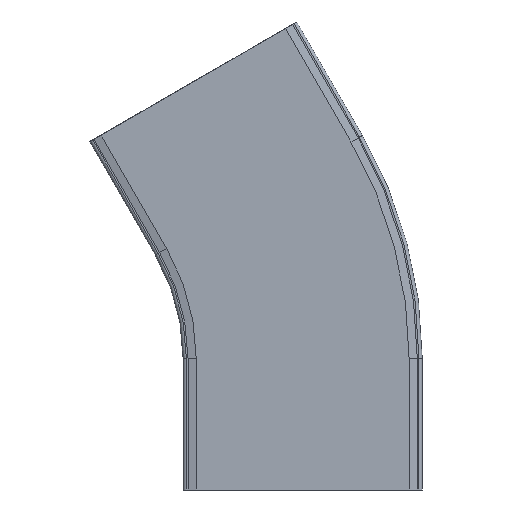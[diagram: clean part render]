
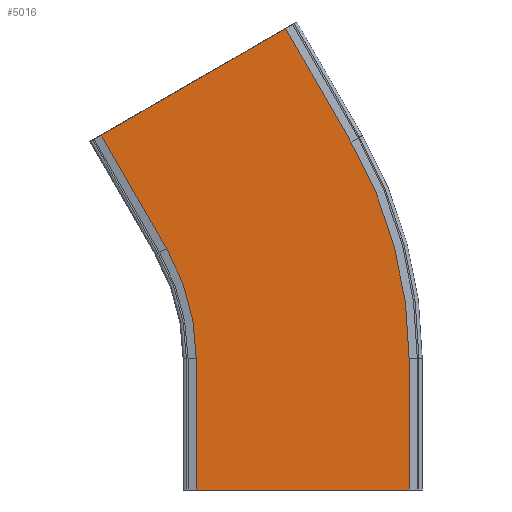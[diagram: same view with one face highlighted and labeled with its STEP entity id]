
A CAD part, front view. The second image highlights one B-rep face of the part: STEP entity #5016.
In plain terms, the highlighted planar face has unit normal (0, -1, 0).
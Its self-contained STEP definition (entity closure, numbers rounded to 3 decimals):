
#4773=CARTESIAN_POINT('',(104.,-74.,0.0));
#4774=VERTEX_POINT('',#4773);
#4781=CARTESIAN_POINT('',(-26.,-74.,0.0));
#4782=VERTEX_POINT('',#4781);
#4783=CARTESIAN_POINT('',(-26.,-74.,0.0));
#4784=DIRECTION('',(1.0,0.0,0.0));
#4785=VECTOR('',#4784,130.);
#4786=LINE('',#4783,#4785);
#4787=EDGE_CURVE('',#4782,#4774,#4786,.T.);
#4842=CARTESIAN_POINT('',(-26.,-74.,80.0));
#4843=VERTEX_POINT('',#4842);
#4852=CARTESIAN_POINT('',(-26.,-74.,0.0));
#4853=DIRECTION('',(0.0,0.0,1.0));
#4854=VECTOR('',#4853,80.0);
#4855=LINE('',#4852,#4854);
#4856=EDGE_CURVE('',#4782,#4843,#4855,.T.);
#4866=CARTESIAN_POINT('',(104.,-74.,80.0));
#4867=VERTEX_POINT('',#4866);
#4876=CARTESIAN_POINT('',(104.,-74.,0.0));
#4877=DIRECTION('',(0.0,0.0,1.0));
#4878=VECTOR('',#4877,80.0);
#4879=LINE('',#4876,#4878);
#4880=EDGE_CURVE('',#4774,#4867,#4879,.T.);
#4899=CARTESIAN_POINT('',(-44.087,-74.,147.5));
#4900=VERTEX_POINT('',#4899);
#4915=CARTESIAN_POINT('',(-161.,-74.,80.0));
#4916=DIRECTION('',(0.0,-1.0,0.0));
#4917=DIRECTION('',(1.0,0.0,0.0));
#4918=AXIS2_PLACEMENT_3D('',#4915,#4916,#4917);
#4919=CIRCLE('',#4918,135.);
#4920=EDGE_CURVE('',#4843,#4900,#4919,.T.);
#4974=CARTESIAN_POINT('',(160.857,-74.,52.528));
#4975=DIRECTION('',(0.0,-1.0,0.0));
#4976=DIRECTION('',(0.5,0.0,-0.866));
#4977=AXIS2_PLACEMENT_3D('',#4974,#4975,#4976);
#4978=PLANE('',#4977);
#4979=CARTESIAN_POINT('',(28.497,-74.,281.782));
#4980=VERTEX_POINT('',#4979);
#4981=CARTESIAN_POINT('',(-84.087,-74.,216.782));
#4982=VERTEX_POINT('',#4981);
#4983=CARTESIAN_POINT('',(28.497,-74.,281.782));
#4984=DIRECTION('',(-0.866,0.,-0.5));
#4985=VECTOR('',#4984,130.);
#4986=LINE('',#4983,#4985);
#4987=EDGE_CURVE('',#4980,#4982,#4986,.T.);
#4988=ORIENTED_EDGE('',*,*,#4987,.T.);
#4989=CARTESIAN_POINT('',(-44.087,-74.,147.5));
#4990=DIRECTION('',(-0.5,0.0,0.866));
#4991=VECTOR('',#4990,80.);
#4992=LINE('',#4989,#4991);
#4993=EDGE_CURVE('',#4900,#4982,#4992,.T.);
#4994=ORIENTED_EDGE('',*,*,#4993,.F.);
#4995=ORIENTED_EDGE('',*,*,#4920,.F.);
#4996=ORIENTED_EDGE('',*,*,#4856,.F.);
#4997=ORIENTED_EDGE('',*,*,#4787,.T.);
#4998=ORIENTED_EDGE('',*,*,#4880,.T.);
#4999=CARTESIAN_POINT('',(68.497,-74.,212.5));
#5000=VERTEX_POINT('',#4999);
#5001=CARTESIAN_POINT('',(-161.,-74.,80.0));
#5002=DIRECTION('',(0.0,-1.0,0.0));
#5003=DIRECTION('',(1.0,0.0,0.0));
#5004=AXIS2_PLACEMENT_3D('',#5001,#5002,#5003);
#5005=CIRCLE('',#5004,265.);
#5006=EDGE_CURVE('',#4867,#5000,#5005,.T.);
#5007=ORIENTED_EDGE('',*,*,#5006,.T.);
#5008=CARTESIAN_POINT('',(68.497,-74.,212.5));
#5009=DIRECTION('',(-0.5,0.0,0.866));
#5010=VECTOR('',#5009,80.);
#5011=LINE('',#5008,#5010);
#5012=EDGE_CURVE('',#5000,#4980,#5011,.T.);
#5013=ORIENTED_EDGE('',*,*,#5012,.T.);
#5014=EDGE_LOOP('',(#4988,#4994,#4995,#4996,#4997,#4998,#5007,#5013));
#5015=FACE_OUTER_BOUND('',#5014,.T.);
#5016=ADVANCED_FACE('',(#5015),#4978,.T.);
